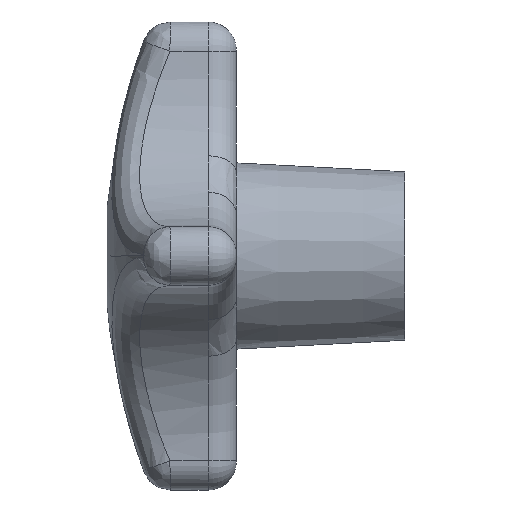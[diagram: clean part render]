
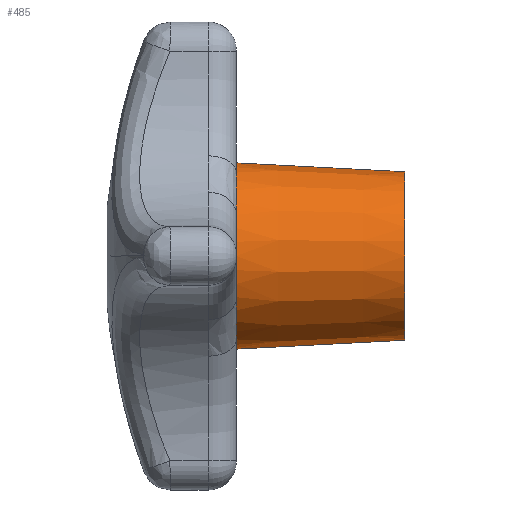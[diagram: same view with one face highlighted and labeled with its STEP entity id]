
A CAD part, left-side view. The second image highlights one B-rep face of the part: STEP entity #485.
In plain terms, the highlighted conical face has half-angle 3 degrees and reference radius 9 mm.
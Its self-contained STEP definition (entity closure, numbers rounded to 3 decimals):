
#142 = VERTEX_POINT ( 'NONE', #6855 ) ;
#157 = EDGE_CURVE ( 'NONE', #161, #142, #6905, .T. ) ;
#159 = VERTEX_POINT ( 'NONE', #6901 ) ;
#161 = VERTEX_POINT ( 'NONE', #6900 ) ;
#405 = ORIENTED_EDGE ( 'NONE', *, *, #6778, .T. ) ;
#463 = VERTEX_POINT ( 'NONE', #1050 ) ;
#467 = EDGE_CURVE ( 'NONE', #476, #463, #1047, .T. ) ;
#476 = VERTEX_POINT ( 'NONE', #1032 ) ;
#479 = ORIENTED_EDGE ( 'NONE', *, *, #157, .F. ) ;
#481 = ORIENTED_EDGE ( 'NONE', *, *, #488, .T. ) ;
#485 = ADVANCED_FACE ( 'NONE', ( #1031 ), #1025, .T. ) ;
#487 = ORIENTED_EDGE ( 'NONE', *, *, #6651, .F. ) ;
#488 = EDGE_CURVE ( 'NONE', #161, #159, #1075, .T. ) ;
#490 = EDGE_LOOP ( 'NONE', ( #479, #481, #405, #487, #6647, #6646, #6644, #6643 ) ) ;
#1023 = CARTESIAN_POINT ( 'NONE',  ( 0., -18., 0. ) ) ;
#1024 = AXIS2_PLACEMENT_3D ( 'NONE', #1023, #1082, #1081 ) ;
#1025 = CONICAL_SURFACE ( 'NONE', #1024, 9., 0.052 ) ;
#1031 = FACE_OUTER_BOUND ( 'NONE', #490, .T. ) ;
#1032 = CARTESIAN_POINT ( 'NONE',  ( -8.912, 0., -4.41 ) ) ;
#1039 = DIRECTION ( 'NONE',  ( 0., 0., 1. ) ) ;
#1040 = DIRECTION ( 'NONE',  ( 0., 1., 0. ) ) ;
#1041 = CARTESIAN_POINT ( 'NONE',  ( 0., 0., 0. ) ) ;
#1042 = AXIS2_PLACEMENT_3D ( 'NONE', #1041, #1040, #1039 ) ;
#1047 = CIRCLE ( 'NONE', #1042, 9.943 ) ;
#1050 = CARTESIAN_POINT ( 'NONE',  ( -8.912, 0., 4.41 ) ) ;
#1071 = DIRECTION ( 'NONE',  ( 0., 0., 1. ) ) ;
#1072 = DIRECTION ( 'NONE',  ( 0., 1., 0. ) ) ;
#1073 = CARTESIAN_POINT ( 'NONE',  ( 0., -18., 0. ) ) ;
#1074 = AXIS2_PLACEMENT_3D ( 'NONE', #1073, #1072, #1071 ) ;
#1075 = CIRCLE ( 'NONE', #1074, 9. ) ;
#1081 = DIRECTION ( 'NONE',  ( 0., 0., 1. ) ) ;
#1082 = DIRECTION ( 'NONE',  ( 0., 1., 0. ) ) ;
#5319 = DIRECTION ( 'NONE',  ( 0., 0., 1. ) ) ;
#5320 = DIRECTION ( 'NONE',  ( 0., 1., 0. ) ) ;
#5321 = CARTESIAN_POINT ( 'NONE',  ( 0., 0., 0. ) ) ;
#5322 = AXIS2_PLACEMENT_3D ( 'NONE', #5321, #5320, #5319 ) ;
#5323 = CIRCLE ( 'NONE', #5322, 9.943 ) ;
#5324 = CARTESIAN_POINT ( 'NONE',  ( -4.41, 0., -8.912 ) ) ;
#5509 = CARTESIAN_POINT ( 'NONE',  ( -4.41, 0., 8.912 ) ) ;
#5510 = DIRECTION ( 'NONE',  ( 0., 0., 1. ) ) ;
#5511 = DIRECTION ( 'NONE',  ( 0., 1., 0. ) ) ;
#5512 = CARTESIAN_POINT ( 'NONE',  ( 0., 0., 0. ) ) ;
#5513 = AXIS2_PLACEMENT_3D ( 'NONE', #5512, #5511, #5510 ) ;
#5514 = CIRCLE ( 'NONE', #5513, 9.943 ) ;
#5515 = DIRECTION ( 'NONE',  ( 0., 0., 1. ) ) ;
#5516 = DIRECTION ( 'NONE',  ( 0., 1., 0. ) ) ;
#5517 = CARTESIAN_POINT ( 'NONE',  ( 0., 0., 0. ) ) ;
#5518 = AXIS2_PLACEMENT_3D ( 'NONE', #5517, #5516, #5515 ) ;
#5519 = CIRCLE ( 'NONE', #5518, 9.943 ) ;
#5520 = DIRECTION ( 'NONE',  ( 0., 0., 1. ) ) ;
#5521 = DIRECTION ( 'NONE',  ( 0., 1., 0. ) ) ;
#5522 = CARTESIAN_POINT ( 'NONE',  ( 0., 0., 0. ) ) ;
#5523 = AXIS2_PLACEMENT_3D ( 'NONE', #5522, #5521, #5520 ) ;
#5527 = CIRCLE ( 'NONE', #5523, 9.943 ) ;
#6030 = CARTESIAN_POINT ( 'NONE',  ( 0., 0., 9.943 ) ) ;
#6205 = DIRECTION ( 'NONE',  ( 0., 0.999, 0.052 ) ) ;
#6206 = VECTOR ( 'NONE', #6205, 1000. ) ;
#6207 = CARTESIAN_POINT ( 'NONE',  ( 0., -18., 9. ) ) ;
#6208 = LINE ( 'NONE', #6207, #6206 ) ;
#6608 = VERTEX_POINT ( 'NONE', #5324 ) ;
#6609 = EDGE_CURVE ( 'NONE', #142, #6608, #5323, .T. ) ;
#6643 = ORIENTED_EDGE ( 'NONE', *, *, #6609, .F. ) ;
#6644 = ORIENTED_EDGE ( 'NONE', *, *, #6645, .F. ) ;
#6645 = EDGE_CURVE ( 'NONE', #6608, #476, #5527, .T. ) ;
#6646 = ORIENTED_EDGE ( 'NONE', *, *, #467, .F. ) ;
#6647 = ORIENTED_EDGE ( 'NONE', *, *, #6648, .F. ) ;
#6648 = EDGE_CURVE ( 'NONE', #463, #6653, #5519, .T. ) ;
#6651 = EDGE_CURVE ( 'NONE', #6653, #6775, #5514, .T. ) ;
#6653 = VERTEX_POINT ( 'NONE', #5509 ) ;
#6775 = VERTEX_POINT ( 'NONE', #6030 ) ;
#6778 = EDGE_CURVE ( 'NONE', #159, #6775, #6208, .T. ) ;
#6855 = CARTESIAN_POINT ( 'NONE',  ( 0., 0., -9.943 ) ) ;
#6900 = CARTESIAN_POINT ( 'NONE',  ( 0., -18., -9. ) ) ;
#6901 = CARTESIAN_POINT ( 'NONE',  ( 0., -18., 9. ) ) ;
#6902 = DIRECTION ( 'NONE',  ( 0., 0.999, -0.052 ) ) ;
#6903 = VECTOR ( 'NONE', #6902, 1000. ) ;
#6904 = CARTESIAN_POINT ( 'NONE',  ( 0., -18., -9. ) ) ;
#6905 = LINE ( 'NONE', #6904, #6903 ) ;
